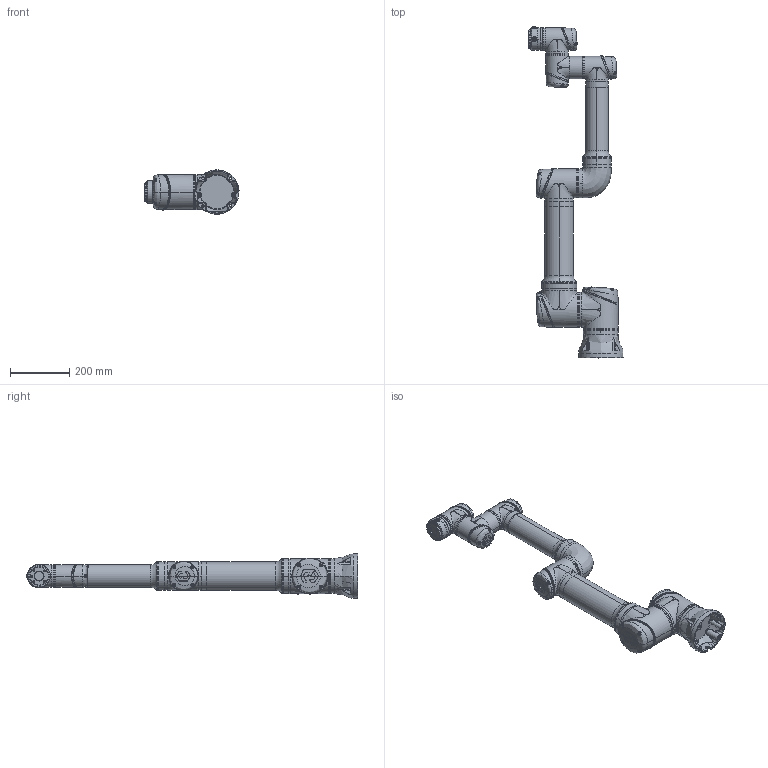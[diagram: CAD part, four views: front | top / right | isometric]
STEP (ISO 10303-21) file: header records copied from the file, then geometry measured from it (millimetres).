
FILE_DESCRIPTION (( 'STEP AP203' ), '1' );
FILE_NAME ('CS_掛极CS66_V1.2.STEP', '2025-03-27T06:40:02', ( '' ), ( '' ), 'SwSTEP 2.0', 'SolidWorks 2017', '' );
FILE_SCHEMA (( 'CONFIG_CONTROL_DESIGN' ));
Products named in the file (8): CS66-Flange; CS_掛极CS66_V1.2; CS66-Link2A_Link2B_J4; CS66-J6; CS66-J5; CS66-Base; CS66-J1; CS66-J2_Link1_J3
Assembly tree (7 placements, depth 2):
  CS_掛极CS66_V1.2
    CS66-Base
    CS66-Flange
    CS66-J1
    CS66-J2_Link1_J3
    CS66-J5
    CS66-J6
    CS66-Link2A_Link2B_J4
Bounding box: 317.35 x 1120.7 x 149.7 mm (x, y, z)
Volume: 11898346.2 mm3; surface area: 927785.4 mm2
Topology: 71 solids, 76 shells, 4824 faces, 11612 edges, 6972 vertices
Faces by surface type: bspline 2348, plane 1118, cylinder 753, cone 328, sphere 153, torus 124
Entity records: 678365 total; most frequent: CARTESIAN_POINT 584864, ORIENTED_EDGE 22820, DIRECTION 14330, EDGE_CURVE 11410, VERTEX_POINT 6960, AXIS2_PLACEMENT_3D 6064, EDGE_LOOP 5120, B_SPLINE_CURVE_WITH_KNOTS 5066
